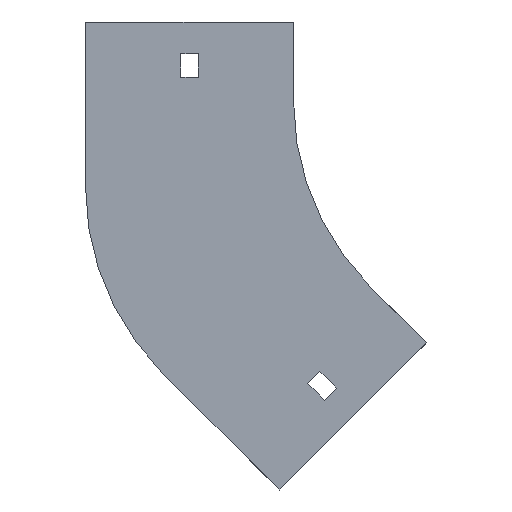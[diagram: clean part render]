
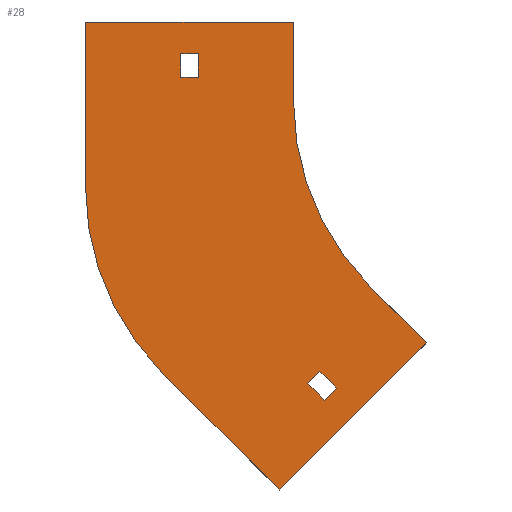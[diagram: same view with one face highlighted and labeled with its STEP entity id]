
A CAD part, front view. The second image highlights one B-rep face of the part: STEP entity #28.
In plain terms, the highlighted planar face has unit normal (0, -1, 0).
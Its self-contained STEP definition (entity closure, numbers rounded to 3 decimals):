
#7 = VERTEX_POINT ( 'NONE', #1268 ) ;
#22 = EDGE_LOOP ( 'NONE', ( #970, #765, #832, #367, #766, #710, #72, #868 ) ) ;
#28 = ADVANCED_FACE ( 'NONE', ( #304, #289, #1070 ), #88, .T. ) ;
#31 = VERTEX_POINT ( 'NONE', #728 ) ;
#40 = CARTESIAN_POINT ( 'NONE',  ( -89.979, 0., -102.707 ) ) ;
#51 = DIRECTION ( 'NONE',  ( 0., 0., 1. ) ) ;
#72 = ORIENTED_EDGE ( 'NONE', *, *, #910, .F. ) ;
#76 = CARTESIAN_POINT ( 'NONE',  ( -94.576, 0., -107.303 ) ) ;
#88 = PLANE ( 'NONE',  #374 ) ;
#91 = CARTESIAN_POINT ( 'NONE',  ( -100., 0., 30. ) ) ;
#95 = DIRECTION ( 'NONE',  ( 0., -1., 0. ) ) ;
#101 = AXIS2_PLACEMENT_3D ( 'NONE', #380, #514, #51 ) ;
#111 = LINE ( 'NONE', #488, #1215 ) ;
#115 = LINE ( 'NONE', #1301, #788 ) ;
#130 = EDGE_CURVE ( 'NONE', #1293, #975, #1324, .T. ) ;
#150 = EDGE_LOOP ( 'NONE', ( #1158, #323, #1026, #308 ) ) ;
#177 = EDGE_CURVE ( 'NONE', #1126, #7, #949, .T. ) ;
#181 = ORIENTED_EDGE ( 'NONE', *, *, #1142, .T. ) ;
#189 = VECTOR ( 'NONE', #666, 1000. ) ;
#221 = VECTOR ( 'NONE', #859, 1000. ) ;
#234 = VERTEX_POINT ( 'NONE', #933 ) ;
#254 = EDGE_CURVE ( 'NONE', #293, #809, #835, .T. ) ;
#264 = VECTOR ( 'NONE', #651, 1000. ) ;
#269 = VERTEX_POINT ( 'NONE', #1025 ) ;
#289 = FACE_OUTER_BOUND ( 'NONE', #22, .T. ) ;
#293 = VERTEX_POINT ( 'NONE', #324 ) ;
#304 = FACE_BOUND ( 'NONE', #571, .T. ) ;
#308 = ORIENTED_EDGE ( 'NONE', *, *, #130, .F. ) ;
#323 = ORIENTED_EDGE ( 'NONE', *, *, #688, .F. ) ;
#324 = CARTESIAN_POINT ( 'NONE',  ( -149.711, 0., -103.434 ) ) ;
#331 = EDGE_CURVE ( 'NONE', #452, #269, #1183, .T. ) ;
#334 = VECTOR ( 'NONE', #1407, 1000. ) ;
#340 = LINE ( 'NONE', #439, #1034 ) ;
#356 = CARTESIAN_POINT ( 'NONE',  ( -49.497, 0., -91.924 ) ) ;
#367 = ORIENTED_EDGE ( 'NONE', *, *, #826, .F. ) ;
#374 = AXIS2_PLACEMENT_3D ( 'NONE', #640, #95, #965 ) ;
#380 = CARTESIAN_POINT ( 'NONE',  ( -79., 0., -32.723 ) ) ;
#385 = DIRECTION ( 'NONE',  ( -0.707, 0., -0.707 ) ) ;
#396 = DIRECTION ( 'NONE',  ( 0., 0., -1. ) ) ;
#416 = CARTESIAN_POINT ( 'NONE',  ( -136.25, 0., 18. ) ) ;
#424 = VERTEX_POINT ( 'NONE', #527 ) ;
#435 = LINE ( 'NONE', #91, #334 ) ;
#439 = CARTESIAN_POINT ( 'NONE',  ( -105.359, 0., -147.785 ) ) ;
#451 = DIRECTION ( 'NONE',  ( 1., 0., 0. ) ) ;
#452 = VERTEX_POINT ( 'NONE', #356 ) ;
#488 = CARTESIAN_POINT ( 'NONE',  ( -179., 0., -32.723 ) ) ;
#514 = DIRECTION ( 'NONE',  ( 0., 1., 0. ) ) ;
#526 = VERTEX_POINT ( 'NONE', #884 ) ;
#527 = CARTESIAN_POINT ( 'NONE',  ( -100., 0., 0. ) ) ;
#563 = DIRECTION ( 'NONE',  ( -1., 0., 0. ) ) ;
#567 = CARTESIAN_POINT ( 'NONE',  ( -100., 0., 30. ) ) ;
#571 = EDGE_LOOP ( 'NONE', ( #936, #181, #664, #1179 ) ) ;
#584 = VECTOR ( 'NONE', #1292, 1000. ) ;
#592 = CARTESIAN_POINT ( 'NONE',  ( -142.75, 0., 18. ) ) ;
#593 = VERTEX_POINT ( 'NONE', #592 ) ;
#611 = VECTOR ( 'NONE', #451, 1000. ) ;
#640 = CARTESIAN_POINT ( 'NONE',  ( 0., 0., 0. ) ) ;
#642 = EDGE_CURVE ( 'NONE', #975, #234, #709, .T. ) ;
#651 = DIRECTION ( 'NONE',  ( 0.707, 0., -0.707 ) ) ;
#656 = VECTOR ( 'NONE', #1221, 1000. ) ;
#663 = LINE ( 'NONE', #670, #879 ) ;
#664 = ORIENTED_EDGE ( 'NONE', *, *, #177, .T. ) ;
#666 = DIRECTION ( 'NONE',  ( -0.707, 0., -0.707 ) ) ;
#668 = CARTESIAN_POINT ( 'NONE',  ( -179., 0., 30. ) ) ;
#670 = CARTESIAN_POINT ( 'NONE',  ( -88.212, 0., -113.667 ) ) ;
#676 = DIRECTION ( 'NONE',  ( -0.707, 0., 0.707 ) ) ;
#680 = AXIS2_PLACEMENT_3D ( 'NONE', #1211, #1320, #1308 ) ;
#688 = EDGE_CURVE ( 'NONE', #234, #526, #961, .T. ) ;
#698 = VECTOR ( 'NONE', #396, 1000. ) ;
#708 = EDGE_CURVE ( 'NONE', #31, #593, #1078, .T. ) ;
#709 = LINE ( 'NONE', #730, #722 ) ;
#710 = ORIENTED_EDGE ( 'NONE', *, *, #757, .F. ) ;
#722 = VECTOR ( 'NONE', #385, 1000. ) ;
#728 = CARTESIAN_POINT ( 'NONE',  ( -142.75, 0., 9. ) ) ;
#730 = CARTESIAN_POINT ( 'NONE',  ( -94.576, 0., -107.303 ) ) ;
#754 = CARTESIAN_POINT ( 'NONE',  ( -49.497, 0., -91.924 ) ) ;
#757 = EDGE_CURVE ( 'NONE', #1230, #452, #759, .T. ) ;
#759 = LINE ( 'NONE', #860, #264 ) ;
#765 = ORIENTED_EDGE ( 'NONE', *, *, #953, .F. ) ;
#766 = ORIENTED_EDGE ( 'NONE', *, *, #331, .F. ) ;
#768 = EDGE_CURVE ( 'NONE', #865, #424, #435, .T. ) ;
#782 = CARTESIAN_POINT ( 'NONE',  ( -179., 0., 30. ) ) ;
#788 = VECTOR ( 'NONE', #563, 1000. ) ;
#789 = CARTESIAN_POINT ( 'NONE',  ( -83.615, 0., -109.071 ) ) ;
#795 = CARTESIAN_POINT ( 'NONE',  ( -89.979, 0., -102.707 ) ) ;
#809 = VERTEX_POINT ( 'NONE', #888 ) ;
#826 = EDGE_CURVE ( 'NONE', #269, #293, #340, .T. ) ;
#832 = ORIENTED_EDGE ( 'NONE', *, *, #254, .F. ) ;
#835 = CIRCLE ( 'NONE', #101, 100. ) ;
#855 = EDGE_CURVE ( 'NONE', #7, #31, #115, .T. ) ;
#859 = DIRECTION ( 'NONE',  ( 1., 0., 0. ) ) ;
#860 = CARTESIAN_POINT ( 'NONE',  ( -70.711, 0., -70.711 ) ) ;
#865 = VERTEX_POINT ( 'NONE', #567 ) ;
#867 = CARTESIAN_POINT ( 'NONE',  ( -142.75, 0., 9. ) ) ;
#868 = ORIENTED_EDGE ( 'NONE', *, *, #768, .F. ) ;
#879 = VECTOR ( 'NONE', #883, 1000. ) ;
#883 = DIRECTION ( 'NONE',  ( 0.707, 0., 0.707 ) ) ;
#884 = CARTESIAN_POINT ( 'NONE',  ( -88.212, 0., -113.667 ) ) ;
#888 = CARTESIAN_POINT ( 'NONE',  ( -179., 0., -32.723 ) ) ;
#900 = EDGE_CURVE ( 'NONE', #526, #1293, #663, .T. ) ;
#910 = EDGE_CURVE ( 'NONE', #424, #1230, #1283, .T. ) ;
#922 = VECTOR ( 'NONE', #1384, 1000. ) ;
#924 = DIRECTION ( 'NONE',  ( 0., 0., 1. ) ) ;
#933 = CARTESIAN_POINT ( 'NONE',  ( -94.576, 0., -107.303 ) ) ;
#936 = ORIENTED_EDGE ( 'NONE', *, *, #708, .T. ) ;
#949 = LINE ( 'NONE', #1031, #698 ) ;
#953 = EDGE_CURVE ( 'NONE', #809, #1278, #111, .T. ) ;
#960 = CARTESIAN_POINT ( 'NONE',  ( -142.75, 0., 18. ) ) ;
#961 = LINE ( 'NONE', #76, #584 ) ;
#965 = DIRECTION ( 'NONE',  ( 0., 0., -1. ) ) ;
#970 = ORIENTED_EDGE ( 'NONE', *, *, #1304, .F. ) ;
#975 = VERTEX_POINT ( 'NONE', #40 ) ;
#1025 = CARTESIAN_POINT ( 'NONE',  ( -105.359, 0., -147.785 ) ) ;
#1026 = ORIENTED_EDGE ( 'NONE', *, *, #642, .F. ) ;
#1031 = CARTESIAN_POINT ( 'NONE',  ( -136.25, 0., 9. ) ) ;
#1034 = VECTOR ( 'NONE', #676, 1000. ) ;
#1065 = LINE ( 'NONE', #960, #221 ) ;
#1070 = FACE_BOUND ( 'NONE', #150, .T. ) ;
#1077 = CARTESIAN_POINT ( 'NONE',  ( -70.711, 0., -70.711 ) ) ;
#1078 = LINE ( 'NONE', #867, #922 ) ;
#1126 = VERTEX_POINT ( 'NONE', #416 ) ;
#1142 = EDGE_CURVE ( 'NONE', #593, #1126, #1065, .T. ) ;
#1158 = ORIENTED_EDGE ( 'NONE', *, *, #900, .F. ) ;
#1179 = ORIENTED_EDGE ( 'NONE', *, *, #855, .T. ) ;
#1183 = LINE ( 'NONE', #754, #189 ) ;
#1211 = CARTESIAN_POINT ( 'NONE',  ( 0., 0., 0. ) ) ;
#1215 = VECTOR ( 'NONE', #924, 1000. ) ;
#1221 = DIRECTION ( 'NONE',  ( -0.707, 0., 0.707 ) ) ;
#1230 = VERTEX_POINT ( 'NONE', #1077 ) ;
#1268 = CARTESIAN_POINT ( 'NONE',  ( -136.25, 0., 9. ) ) ;
#1278 = VERTEX_POINT ( 'NONE', #668 ) ;
#1283 = CIRCLE ( 'NONE', #680, 100. ) ;
#1292 = DIRECTION ( 'NONE',  ( 0.707, 0., -0.707 ) ) ;
#1293 = VERTEX_POINT ( 'NONE', #789 ) ;
#1300 = LINE ( 'NONE', #782, #611 ) ;
#1301 = CARTESIAN_POINT ( 'NONE',  ( -142.75, 0., 9. ) ) ;
#1304 = EDGE_CURVE ( 'NONE', #1278, #865, #1300, .T. ) ;
#1308 = DIRECTION ( 'NONE',  ( 0., 0., -1. ) ) ;
#1320 = DIRECTION ( 'NONE',  ( 0., -1., 0. ) ) ;
#1324 = LINE ( 'NONE', #795, #656 ) ;
#1384 = DIRECTION ( 'NONE',  ( 0., 0., 1. ) ) ;
#1407 = DIRECTION ( 'NONE',  ( 0., 0., -1. ) ) ;
